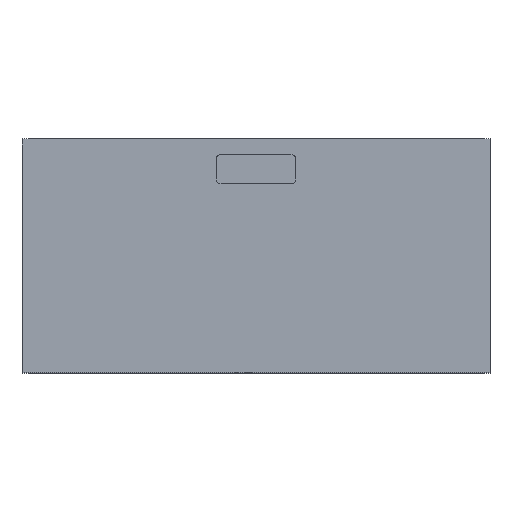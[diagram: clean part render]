
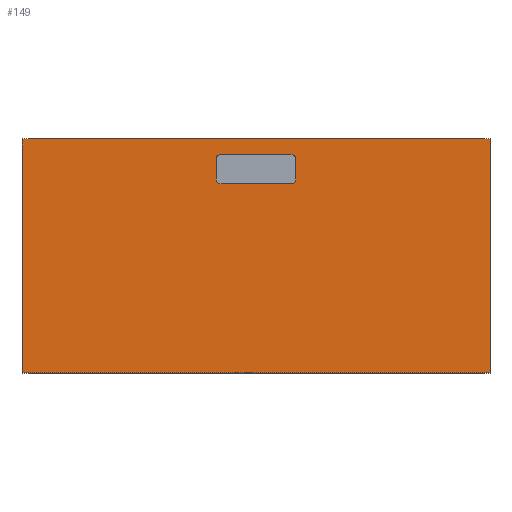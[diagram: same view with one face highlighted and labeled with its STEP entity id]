
A CAD part, top view. The second image highlights one B-rep face of the part: STEP entity #149.
In plain terms, the highlighted planar face has unit normal (0, 0, 1).
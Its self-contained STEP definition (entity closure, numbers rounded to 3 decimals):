
#40=FACE_BOUND('',#326,.T.);
#149=ADVANCED_FACE('',(#236,#40),#1241,.T.);
#236=FACE_OUTER_BOUND('',#325,.T.);
#325=EDGE_LOOP('',(#581,#582,#583,#584));
#326=EDGE_LOOP('',(#585,#586,#587,#588,#589,#590,#591,#592));
#581=ORIENTED_EDGE('',*,*,#818,.F.);
#582=ORIENTED_EDGE('',*,*,#814,.F.);
#583=ORIENTED_EDGE('',*,*,#815,.F.);
#584=ORIENTED_EDGE('',*,*,#808,.F.);
#585=ORIENTED_EDGE('',*,*,#821,.F.);
#586=ORIENTED_EDGE('',*,*,#828,.F.);
#587=ORIENTED_EDGE('',*,*,#827,.F.);
#588=ORIENTED_EDGE('',*,*,#826,.F.);
#589=ORIENTED_EDGE('',*,*,#825,.F.);
#590=ORIENTED_EDGE('',*,*,#824,.F.);
#591=ORIENTED_EDGE('',*,*,#823,.F.);
#592=ORIENTED_EDGE('',*,*,#822,.F.);
#808=EDGE_CURVE('',#1138,#1139,#976,.T.);
#814=EDGE_CURVE('',#1144,#1141,#982,.T.);
#815=EDGE_CURVE('',#1139,#1144,#983,.T.);
#818=EDGE_CURVE('',#1141,#1138,#986,.T.);
#821=EDGE_CURVE('',#1145,#1146,#989,.T.);
#822=EDGE_CURVE('',#1146,#1147,#990,.T.);
#823=EDGE_CURVE('',#1147,#1148,#991,.T.);
#824=EDGE_CURVE('',#1148,#1149,#992,.T.);
#825=EDGE_CURVE('',#1149,#1150,#993,.T.);
#826=EDGE_CURVE('',#1150,#1151,#994,.T.);
#827=EDGE_CURVE('',#1151,#1152,#995,.T.);
#828=EDGE_CURVE('',#1152,#1145,#996,.T.);
#976=B_SPLINE_CURVE_WITH_KNOTS('',1,(#2434,#2435),.UNSPECIFIED.,.F.,.F.,
(2,2),(-2.133,0.),.UNSPECIFIED.);
#982=B_SPLINE_CURVE_WITH_KNOTS('',1,(#2446,#2447),.UNSPECIFIED.,.F.,.F.,
(2,2),(0.,2.133),.UNSPECIFIED.);
#983=B_SPLINE_CURVE_WITH_KNOTS('',1,(#2448,#2449),.UNSPECIFIED.,.F.,.F.,
(2,2),(0.,4.265),.UNSPECIFIED.);
#986=B_SPLINE_CURVE_WITH_KNOTS('',1,(#2454,#2455),.UNSPECIFIED.,.F.,.F.,
(2,2),(0.,4.265),.UNSPECIFIED.);
#989=B_SPLINE_CURVE_WITH_KNOTS('',3,(#2460,#2461,#2462,#2463,#2464,#2465,
#2466,#2467,#2468),.UNSPECIFIED.,.F.,.F.,(4,1,1,1,1,1,4),(-1.,-0.833,
-0.667,-0.5,-0.333,-0.167,0.),
 .UNSPECIFIED.);
#990=B_SPLINE_CURVE_WITH_KNOTS('',1,(#2469,#2470),.UNSPECIFIED.,.F.,.F.,
(2,2),(-0.656,0.),.UNSPECIFIED.);
#991=B_SPLINE_CURVE_WITH_KNOTS('',3,(#2471,#2472,#2473,#2474,#2475,#2476,
#2477,#2478,#2479),.UNSPECIFIED.,.F.,.F.,(4,1,1,1,1,1,4),(-1.,-0.833,
-0.667,-0.5,-0.333,-0.167,0.),
 .UNSPECIFIED.);
#992=B_SPLINE_CURVE_WITH_KNOTS('',1,(#2480,#2481),.UNSPECIFIED.,.F.,.F.,
(2,2),(-0.197,0.),.UNSPECIFIED.);
#993=B_SPLINE_CURVE_WITH_KNOTS('',3,(#2482,#2483,#2484,#2485,#2486,#2487,
#2488,#2489,#2490),.UNSPECIFIED.,.F.,.F.,(4,1,1,1,1,1,4),(-1.,-0.833,
-0.667,-0.5,-0.333,-0.167,0.),
 .UNSPECIFIED.);
#994=B_SPLINE_CURVE_WITH_KNOTS('',1,(#2491,#2492),.UNSPECIFIED.,.F.,.F.,
(2,2),(-0.656,0.),.UNSPECIFIED.);
#995=B_SPLINE_CURVE_WITH_KNOTS('',3,(#2493,#2494,#2495,#2496,#2497,#2498,
#2499,#2500,#2501),.UNSPECIFIED.,.F.,.F.,(4,1,1,1,1,1,4),(-1.,-0.833,
-0.667,-0.5,-0.333,-0.167,0.),
 .UNSPECIFIED.);
#996=B_SPLINE_CURVE_WITH_KNOTS('',1,(#2502,#2503),.UNSPECIFIED.,.F.,.F.,
(2,2),(-0.197,0.),.UNSPECIFIED.);
#1138=VERTEX_POINT('',#2373);
#1139=VERTEX_POINT('',#2374);
#1141=VERTEX_POINT('',#2376);
#1144=VERTEX_POINT('',#2379);
#1145=VERTEX_POINT('',#2380);
#1146=VERTEX_POINT('',#2381);
#1147=VERTEX_POINT('',#2382);
#1148=VERTEX_POINT('',#2383);
#1149=VERTEX_POINT('',#2384);
#1150=VERTEX_POINT('',#2385);
#1151=VERTEX_POINT('',#2386);
#1152=VERTEX_POINT('',#2387);
#1241=PLANE('',#1870);
#1870=AXIS2_PLACEMENT_3D('',#2355,#2013,$);
#2013=DIRECTION('',(0.,0.,1.));
#2355=CARTESIAN_POINT('',(650.01,-329.01,737.825));
#2373=CARTESIAN_POINT('',(-650.,-329.,737.825));
#2374=CARTESIAN_POINT('',(-650.,321.,737.825));
#2376=CARTESIAN_POINT('',(650.,-329.,737.825));
#2379=CARTESIAN_POINT('',(650.,321.,737.825));
#2380=CARTESIAN_POINT('',(-110.,207.,737.825));
#2381=CARTESIAN_POINT('',(-100.,197.,737.825));
#2382=CARTESIAN_POINT('',(100.,197.,737.825));
#2383=CARTESIAN_POINT('',(110.,207.,737.825));
#2384=CARTESIAN_POINT('',(110.,267.,737.825));
#2385=CARTESIAN_POINT('',(100.,277.,737.825));
#2386=CARTESIAN_POINT('',(-100.,277.,737.825));
#2387=CARTESIAN_POINT('',(-110.,267.,737.825));
#2434=CARTESIAN_POINT('',(-650.,-329.,737.825));
#2435=CARTESIAN_POINT('',(-650.,321.,737.825));
#2446=CARTESIAN_POINT('',(650.,321.,737.825));
#2447=CARTESIAN_POINT('',(650.,-329.,737.825));
#2448=CARTESIAN_POINT('',(-650.,321.,737.825));
#2449=CARTESIAN_POINT('',(650.,321.,737.825));
#2454=CARTESIAN_POINT('',(650.,-329.,737.825));
#2455=CARTESIAN_POINT('',(-650.,-329.,737.825));
#2460=CARTESIAN_POINT('',(-110.,207.,737.825));
#2461=CARTESIAN_POINT('',(-110.003,206.127,737.825));
#2462=CARTESIAN_POINT('',(-109.769,204.382,737.825));
#2463=CARTESIAN_POINT('',(-108.76,201.942,737.825));
#2464=CARTESIAN_POINT('',(-107.152,199.848,737.825));
#2465=CARTESIAN_POINT('',(-105.058,198.24,737.825));
#2466=CARTESIAN_POINT('',(-102.618,197.231,737.825));
#2467=CARTESIAN_POINT('',(-100.873,196.997,737.825));
#2468=CARTESIAN_POINT('',(-100.,197.,737.825));
#2469=CARTESIAN_POINT('',(-100.,197.,737.825));
#2470=CARTESIAN_POINT('',(100.,197.,737.825));
#2471=CARTESIAN_POINT('',(100.,197.,737.825));
#2472=CARTESIAN_POINT('',(100.873,196.997,737.825));
#2473=CARTESIAN_POINT('',(102.618,197.231,737.825));
#2474=CARTESIAN_POINT('',(105.058,198.24,737.825));
#2475=CARTESIAN_POINT('',(107.152,199.848,737.825));
#2476=CARTESIAN_POINT('',(108.76,201.942,737.825));
#2477=CARTESIAN_POINT('',(109.769,204.382,737.825));
#2478=CARTESIAN_POINT('',(110.003,206.127,737.825));
#2479=CARTESIAN_POINT('',(110.,207.,737.825));
#2480=CARTESIAN_POINT('',(110.,207.,737.825));
#2481=CARTESIAN_POINT('',(110.,267.,737.825));
#2482=CARTESIAN_POINT('',(110.,267.,737.825));
#2483=CARTESIAN_POINT('',(110.003,267.873,737.825));
#2484=CARTESIAN_POINT('',(109.769,269.618,737.825));
#2485=CARTESIAN_POINT('',(108.76,272.058,737.825));
#2486=CARTESIAN_POINT('',(107.152,274.152,737.825));
#2487=CARTESIAN_POINT('',(105.058,275.76,737.825));
#2488=CARTESIAN_POINT('',(102.618,276.769,737.825));
#2489=CARTESIAN_POINT('',(100.873,277.003,737.825));
#2490=CARTESIAN_POINT('',(100.,277.,737.825));
#2491=CARTESIAN_POINT('',(100.,277.,737.825));
#2492=CARTESIAN_POINT('',(-100.,277.,737.825));
#2493=CARTESIAN_POINT('',(-100.,277.,737.825));
#2494=CARTESIAN_POINT('',(-100.873,277.003,737.825));
#2495=CARTESIAN_POINT('',(-102.618,276.769,737.825));
#2496=CARTESIAN_POINT('',(-105.058,275.76,737.825));
#2497=CARTESIAN_POINT('',(-107.152,274.152,737.825));
#2498=CARTESIAN_POINT('',(-108.76,272.058,737.825));
#2499=CARTESIAN_POINT('',(-109.769,269.618,737.825));
#2500=CARTESIAN_POINT('',(-110.003,267.873,737.825));
#2501=CARTESIAN_POINT('',(-110.,267.,737.825));
#2502=CARTESIAN_POINT('',(-110.,267.,737.825));
#2503=CARTESIAN_POINT('',(-110.,207.,737.825));
